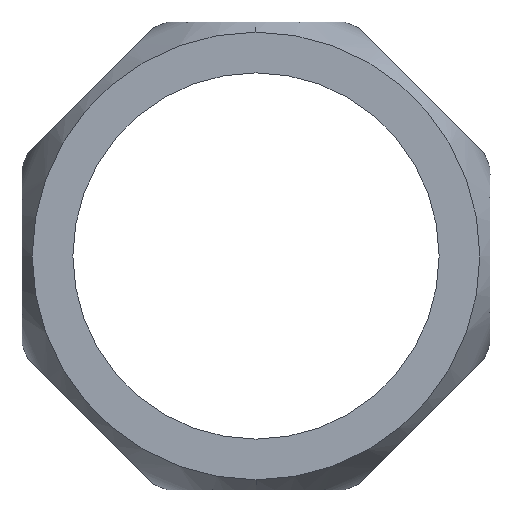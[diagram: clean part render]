
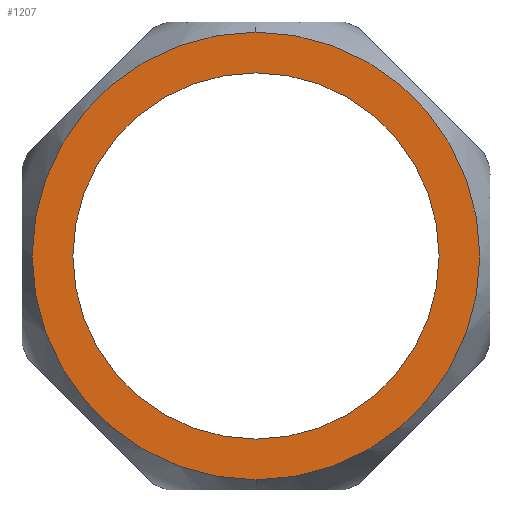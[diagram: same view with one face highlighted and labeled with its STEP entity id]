
A CAD part, left-side view. The second image highlights one B-rep face of the part: STEP entity #1207.
In plain terms, the highlighted planar face has unit normal (-1, 0, 0).
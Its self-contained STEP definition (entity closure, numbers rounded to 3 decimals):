
#75=CARTESIAN_POINT('',(0.0,0.,18.));
#76=VERTEX_POINT('',#75);
#92=CARTESIAN_POINT('',(0.,-18.,0.));
#93=VERTEX_POINT('',#92);
#100=CARTESIAN_POINT('',(0.0,0.,0.0));
#101=DIRECTION('',(1.0,0.0,0.0));
#102=DIRECTION('',(0.0,0.0,-1.0));
#103=AXIS2_PLACEMENT_3D('',#100,#101,#102);
#104=CIRCLE('',#103,18.);
#105=EDGE_CURVE('',#76,#93,#104,.T.);
#277=CARTESIAN_POINT('',(0.0,0.,-18.));
#278=VERTEX_POINT('',#277);
#294=CARTESIAN_POINT('',(0.,18.0,0.0));
#295=VERTEX_POINT('',#294);
#302=CARTESIAN_POINT('',(0.0,0.,0.0));
#303=DIRECTION('',(1.0,0.0,0.0));
#304=DIRECTION('',(0.0,0.0,1.0));
#305=AXIS2_PLACEMENT_3D('',#302,#303,#304);
#306=CIRCLE('',#305,18.);
#307=EDGE_CURVE('',#278,#295,#306,.T.);
#335=CARTESIAN_POINT('',(0.,0.,-22.0));
#336=VERTEX_POINT('',#335);
#352=CARTESIAN_POINT('',(0.,22.0,0.0));
#353=VERTEX_POINT('',#352);
#354=CARTESIAN_POINT('',(0.,0.,0.0));
#355=DIRECTION('',(1.0,0.0,0.0));
#356=DIRECTION('',(0.0,1.0,0.0));
#357=AXIS2_PLACEMENT_3D('',#354,#355,#356);
#358=CIRCLE('',#357,22.0);
#359=EDGE_CURVE('',#336,#353,#358,.T.);
#361=CARTESIAN_POINT('',(0.,0.,22.));
#362=VERTEX_POINT('',#361);
#363=CARTESIAN_POINT('',(0.,0.,0.0));
#364=DIRECTION('',(1.0,0.0,0.0));
#365=DIRECTION('',(0.0,1.0,0.0));
#366=AXIS2_PLACEMENT_3D('',#363,#364,#365);
#367=CIRCLE('',#366,22.0);
#368=EDGE_CURVE('',#353,#362,#367,.T.);
#684=CARTESIAN_POINT('',(0.0,0.,0.0));
#685=DIRECTION('',(1.0,0.0,0.0));
#686=DIRECTION('',(0.0,0.0,1.0));
#687=AXIS2_PLACEMENT_3D('',#684,#685,#686);
#688=CIRCLE('',#687,18.);
#689=EDGE_CURVE('',#93,#278,#688,.T.);
#1130=CARTESIAN_POINT('',(0.0,0.,0.0));
#1131=DIRECTION('',(1.0,0.0,0.0));
#1132=DIRECTION('',(0.0,0.0,-1.0));
#1133=AXIS2_PLACEMENT_3D('',#1130,#1131,#1132);
#1134=CIRCLE('',#1133,18.);
#1135=EDGE_CURVE('',#295,#76,#1134,.T.);
#1172=CARTESIAN_POINT('',(0.,0.,0.0));
#1173=DIRECTION('',(1.0,0.0,0.0));
#1174=DIRECTION('',(0.0,1.0,0.0));
#1175=AXIS2_PLACEMENT_3D('',#1172,#1173,#1174);
#1176=CIRCLE('',#1175,22.0);
#1177=EDGE_CURVE('',#362,#336,#1176,.T.);
#1191=CARTESIAN_POINT('',(0.0,-24.2,-24.2));
#1192=DIRECTION('',(-1.0,0.0,0.0));
#1193=DIRECTION('',(0.0,0.0,1.0));
#1194=AXIS2_PLACEMENT_3D('',#1191,#1192,#1193);
#1195=PLANE('',#1194);
#1196=ORIENTED_EDGE('',*,*,#368,.F.);
#1197=ORIENTED_EDGE('',*,*,#359,.F.);
#1198=ORIENTED_EDGE('',*,*,#1177,.F.);
#1199=EDGE_LOOP('',(#1196,#1197,#1198));
#1200=FACE_OUTER_BOUND('',#1199,.T.);
#1201=ORIENTED_EDGE('',*,*,#1135,.T.);
#1202=ORIENTED_EDGE('',*,*,#105,.T.);
#1203=ORIENTED_EDGE('',*,*,#689,.T.);
#1204=ORIENTED_EDGE('',*,*,#307,.T.);
#1205=EDGE_LOOP('',(#1201,#1202,#1203,#1204));
#1206=FACE_BOUND('',#1205,.T.);
#1207=ADVANCED_FACE('',(#1200,#1206),#1195,.T.);
